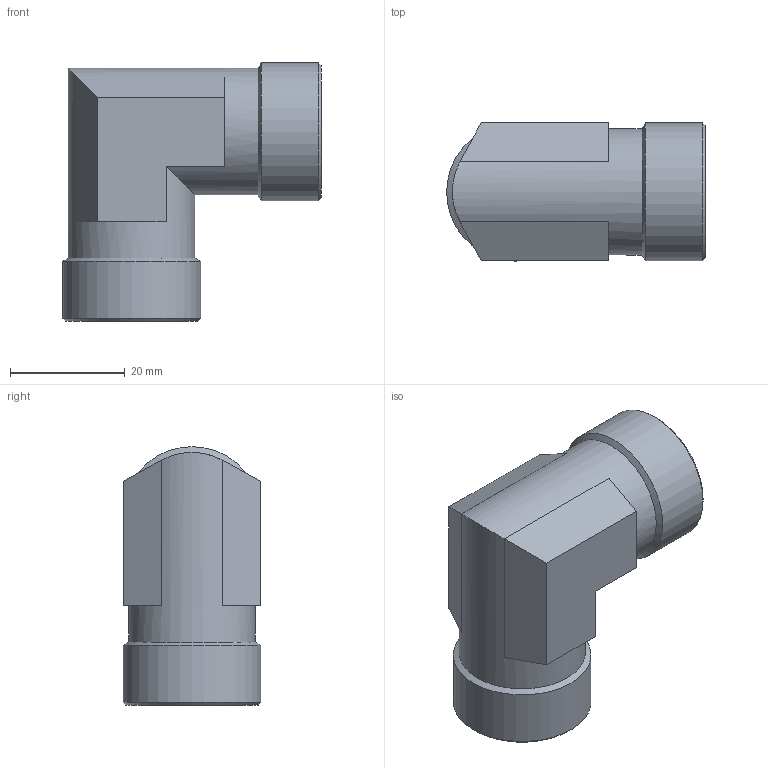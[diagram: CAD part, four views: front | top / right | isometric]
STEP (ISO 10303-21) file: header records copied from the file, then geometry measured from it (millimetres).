
FILE_DESCRIPTION( ( 'Unknown' ), '1' );
FILE_NAME( 'C:/Users/p.nanko/Desktop/3D SR/XW16S.stp', 'Unknown', ( 'Peter Nanko' ), ( 'Armaturen Arndt' ), 'PSStep 14.0', 'Solid Edge ST4', ' ' );
FILE_SCHEMA( ( 'AUTOMOTIVE_DESIGN { 1 0 10303 214 1 1 1 1 }' ) );
Length unit declared in the file: millimetre
Products named in the file (1): 1
Bounding box: 45 x 24 x 45 mm (x, y, z)
Volume: 18911.8 mm3; surface area: 8401.7 mm2
Topology: 1 solids, 1 shells, 42 faces, 88 edges, 50 vertices
Faces by surface type: plane 18, cylinder 12, cone 12
Full cylindrical faces by diameter (mm): 12 x2, 16 x2, 22 x2, 24 x2
Entity records: 1414 total; most frequent: CARTESIAN_POINT 220, DIRECTION 188, ORIENTED_EDGE 144, AXIS2_PLACEMENT_3D 78, EDGE_CURVE 72, EDGE_LOOP 60, FACE_OUTER_BOUND 50, VERTEX_POINT 48
